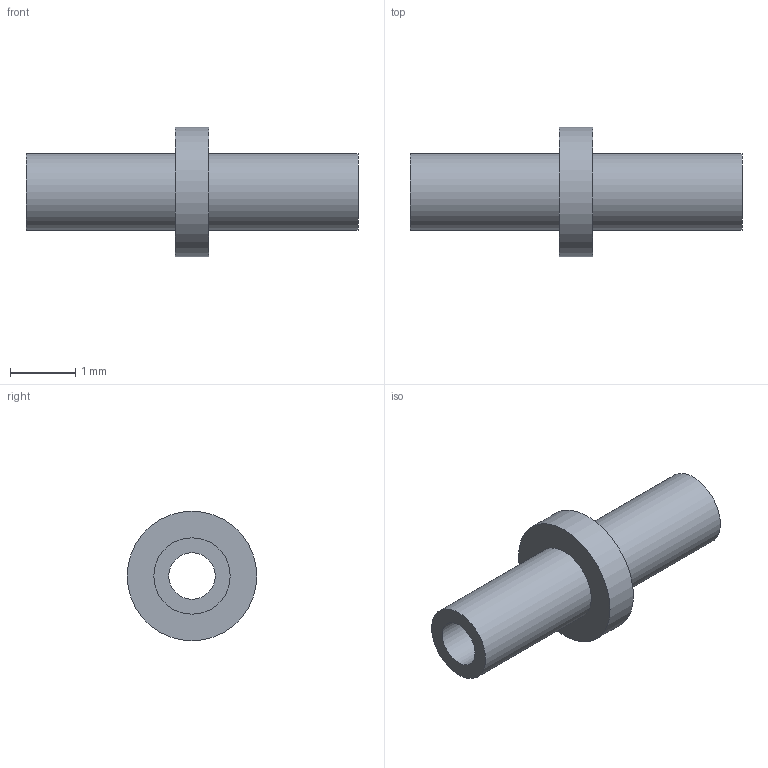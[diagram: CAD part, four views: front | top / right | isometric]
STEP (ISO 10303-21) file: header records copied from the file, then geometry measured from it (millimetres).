
FILE_DESCRIPTION(/* description */ (''),/* implementation_level */ '2;1');
FILE_NAME(/* name */ 'Z:\STEP folder\180-1460-02.ipt.stp',/* time_stamp */ '2016-12-07T16:16:37+00:00',/* author */ ('Paul Karlsons'),/* organization */ (''),/* preprocessor_version */ 'ST-DEVELOPER v15.2',/* originating_system */ 'Autodesk Inventor 2014',/* authorisation */ '');
FILE_SCHEMA (('AUTOMOTIVE_DESIGN { 1 0 10303 214 3 1 1 }'));
Length unit declared in the file: millimetre
Products named in the file (1): 180-1460-02
Bounding box: 5.08 x 1.98 x 1.98 mm (x, y, z)
Volume: 4.5 mm3; surface area: 36.7 mm2
Topology: 1 solids, 1 shells, 8 faces, 13 edges, 9 vertices
Faces by surface type: cylinder 4, plane 4
Full cylindrical faces by diameter (mm): 0.711 x1, 1.168 x2, 1.981 x1
Entity records: 189 total; most frequent: DIRECTION 34, CARTESIAN_POINT 25, AXIS2_PLACEMENT_3D 17, EDGE_LOOP 16, ORIENTED_EDGE 16, FACE_BOUND 11, CIRCLE 8, VERTEX_POINT 8
